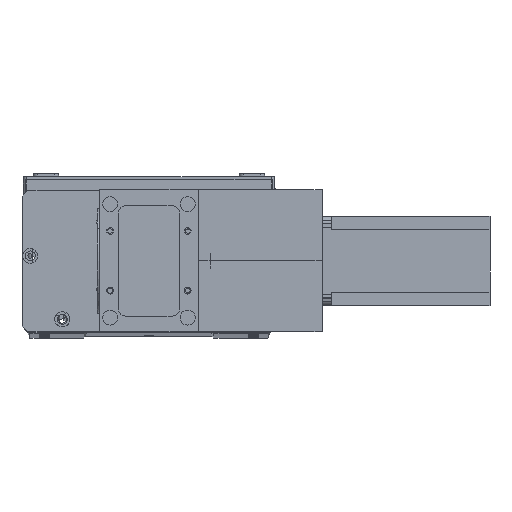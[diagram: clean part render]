
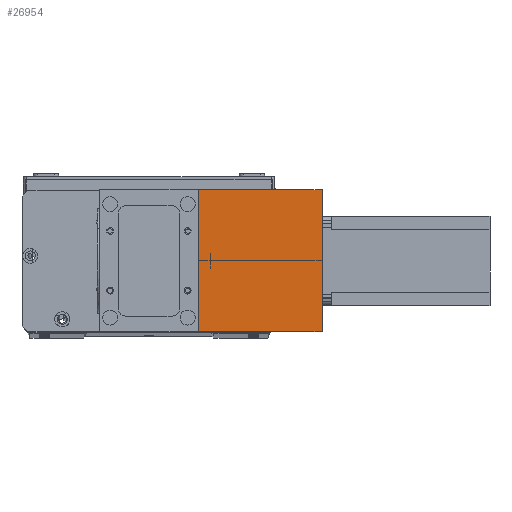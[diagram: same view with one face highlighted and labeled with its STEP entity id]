
A CAD part, top view. The second image highlights one B-rep face of the part: STEP entity #26954.
In plain terms, the highlighted planar face has unit normal (0, 0, 1) as drawn and (1, 0, 0) by its records, which use the part's own axes.
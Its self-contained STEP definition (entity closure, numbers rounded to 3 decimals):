
#1759 = VERTEX_POINT ( 'NONE', #19657 ) ;
#2085 = EDGE_LOOP ( 'NONE', ( #10614, #16333, #26435, #2930 ) ) ;
#2580 = LINE ( 'NONE', #8303, #14021 ) ;
#2660 = DIRECTION ( 'NONE',  ( 0., 0., 1. ) ) ;
#2930 = ORIENTED_EDGE ( 'NONE', *, *, #10392, .T. ) ;
#3517 = VERTEX_POINT ( 'NONE', #23849 ) ;
#4509 = VERTEX_POINT ( 'NONE', #11987 ) ;
#4651 = EDGE_CURVE ( 'NONE', #13499, #3517, #11190, .T. ) ;
#5438 = CARTESIAN_POINT ( 'NONE',  ( 82., 0., 83. ) ) ;
#6775 = DIRECTION ( 'NONE',  ( 0., 1., 0. ) ) ;
#7587 = CARTESIAN_POINT ( 'NONE',  ( 82., 0., 83. ) ) ;
#8303 = CARTESIAN_POINT ( 'NONE',  ( 82., 95., 83. ) ) ;
#9084 = DIRECTION ( 'NONE',  ( 0., 1., 0. ) ) ;
#9455 = AXIS2_PLACEMENT_3D ( 'NONE', #20706, #16353, #2660 ) ;
#9511 = PLANE ( 'NONE',  #9455 ) ;
#10392 = EDGE_CURVE ( 'NONE', #13499, #1759, #25509, .T. ) ;
#10498 = VECTOR ( 'NONE', #6775, 1000. ) ;
#10614 = ORIENTED_EDGE ( 'NONE', *, *, #16426, .T. ) ;
#11190 = LINE ( 'NONE', #7587, #10498 ) ;
#11987 = CARTESIAN_POINT ( 'NONE',  ( 82., 95., 0. ) ) ;
#13499 = VERTEX_POINT ( 'NONE', #5438 ) ;
#13591 = CARTESIAN_POINT ( 'NONE',  ( 82., 0., 83. ) ) ;
#13874 = DIRECTION ( 'NONE',  ( 0., 0., -1. ) ) ;
#14021 = VECTOR ( 'NONE', #28469, 1000. ) ;
#16333 = ORIENTED_EDGE ( 'NONE', *, *, #16810, .F. ) ;
#16353 = DIRECTION ( 'NONE',  ( -1., 0., 0. ) ) ;
#16426 = EDGE_CURVE ( 'NONE', #1759, #4509, #27370, .T. ) ;
#16810 = EDGE_CURVE ( 'NONE', #3517, #4509, #2580, .T. ) ;
#19568 = VECTOR ( 'NONE', #13874, 1000. ) ;
#19657 = CARTESIAN_POINT ( 'NONE',  ( 82., 0., 0. ) ) ;
#20706 = CARTESIAN_POINT ( 'NONE',  ( 82., 0., 83. ) ) ;
#21524 = VECTOR ( 'NONE', #9084, 1000. ) ;
#21615 = FACE_OUTER_BOUND ( 'NONE', #2085, .T. ) ;
#23849 = CARTESIAN_POINT ( 'NONE',  ( 82., 95., 83. ) ) ;
#24850 = CARTESIAN_POINT ( 'NONE',  ( 82., 0., 0. ) ) ;
#25509 = LINE ( 'NONE', #13591, #19568 ) ;
#26435 = ORIENTED_EDGE ( 'NONE', *, *, #4651, .F. ) ;
#26954 = ADVANCED_FACE ( 'NONE', ( #21615 ), #9511, .F. ) ;
#27370 = LINE ( 'NONE', #24850, #21524 ) ;
#28469 = DIRECTION ( 'NONE',  ( 0., 0., -1. ) ) ;
